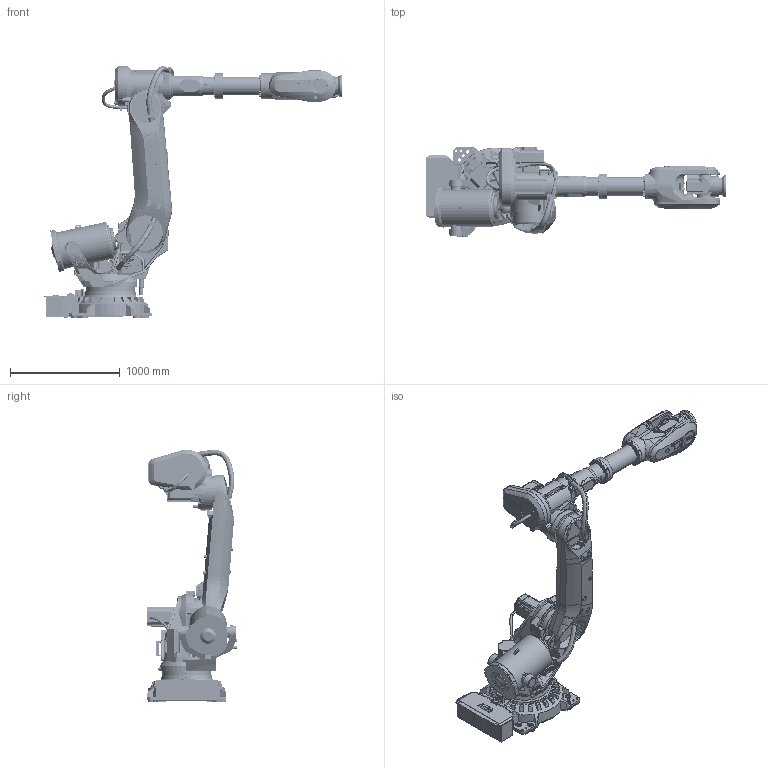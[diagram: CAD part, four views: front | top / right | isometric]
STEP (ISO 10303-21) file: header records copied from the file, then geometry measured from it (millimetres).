
FILE_DESCRIPTION(/* description */ (''),/* implementation_level */ '2;1');
FILE_NAME(/* name */ 'E:\组装完成的图纸\IRB 6700\IRB 6700-175-3.05\IRB 6700-175-3.05.stp',/* time_stamp */ '2023-11-04T19:20:30+08:00',/* author */ ('Administrator'),/* organization */ (''),/* preprocessor_version */ 'ST-DEVELOPER v16.5',/* originating_system */ 'Autodesk Inventor 2017',/* authorisation */ '');
FILE_SCHEMA (('AUTOMOTIVE_DESIGN { 1 0 10303 214 3 1 1 }'));
Products named in the file (17): 部件1; IRB6700_175-305_IRC5_rev00_LOGO1_CAD; IRB6700_175-305_IRC5_rev00_LOGO2_CAD; IRB6700_175-305_IRC5_rev00_LOGO3_CAD; IRB6700_175-305_IRC5_rev01_BASE_CAD; IRB6700_175-305_IRC5_rev01_LINK02m_CABLE; IRB6700_175-305_IRC5_rev01_LINK06_CAD; IRB6700_175-305_IRC5_rev02_LINK01m_CABLE; IRB6700_175-305_IRC5_rev02_LINK03m_CABLE; IRB6700_175-305_IRC5_rev02_LINK06_CAD; IRB6700_175-305_IRC5_rev03_LINK02_CAD; IRB6700_175-305_IRC5_rev03_LINK04_CAD; IRB6700_175-305_IRC5_rev03_ROD_CAD; IRB6700_175-305_IRC5_rev04_LINK05_CAD; IRB6700_175-305_IRC5_rev05_LINK03_CAD; IRB6700_175-305_IRC5_rev06_CYLINDER_CAD; IRB6700_175-305_IRC5_rev06_LINK01_CAD
Assembly tree (16 placements, depth 2):
  部件1
    IRB6700_175-305_IRC5_rev00_LOGO1_CAD
    IRB6700_175-305_IRC5_rev00_LOGO2_CAD
    IRB6700_175-305_IRC5_rev00_LOGO3_CAD
    IRB6700_175-305_IRC5_rev01_BASE_CAD
    IRB6700_175-305_IRC5_rev01_LINK02m_CABLE
    IRB6700_175-305_IRC5_rev01_LINK06_CAD
    IRB6700_175-305_IRC5_rev02_LINK01m_CABLE
    IRB6700_175-305_IRC5_rev02_LINK03m_CABLE
    IRB6700_175-305_IRC5_rev02_LINK06_CAD
    IRB6700_175-305_IRC5_rev03_LINK02_CAD
    IRB6700_175-305_IRC5_rev03_LINK04_CAD
    IRB6700_175-305_IRC5_rev03_ROD_CAD
    IRB6700_175-305_IRC5_rev04_LINK05_CAD
    IRB6700_175-305_IRC5_rev05_LINK03_CAD
    IRB6700_175-305_IRC5_rev06_CYLINDER_CAD
    IRB6700_175-305_IRC5_rev06_LINK01_CAD
Bounding box: 2739.5 x 816 x 2300.25 mm (x, y, z)
Volume: 449499672 mm3; surface area: 13327230.4 mm2
Topology: 17 solids, 19 shells, 5439 faces, 14441 edges, 9359 vertices
Faces by surface type: plane 3263, cylinder 1123, cone 566, bspline 462, torus 18, sphere 7
Full cylindrical faces by diameter (mm): 1.6 x2, 5 x23, 6 x14, 6.5 x8, 6.6 x9, 6.8 x13, 7 x16, 7.1 x2, 7.5 x8, 8 x2, 8.3 x4, 8.5 x4, 8.6 x4, 8.8 x4, 9 x5, 10 x4, 10.2 x49, 11.05 x4, 12 x2, 12.5 x2, 13 x1, 14 x6, 14.385 x3, 16 x1, 16.3 x1, 17.5 x8, 17.583 x1, 17.6 x1, 17.608 x1, 18 x16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
Entity records: 233190 total; most frequent: CARTESIAN_POINT 102898, ORIENTED_EDGE 27076, DIRECTION 25358, EDGE_CURVE 13538, VERTEX_POINT 9110, AXIS2_PLACEMENT_3D 8630, LINE 8098, VECTOR 8098
